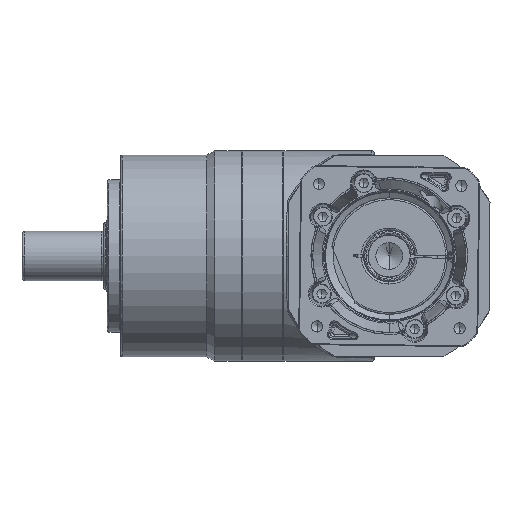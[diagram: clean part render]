
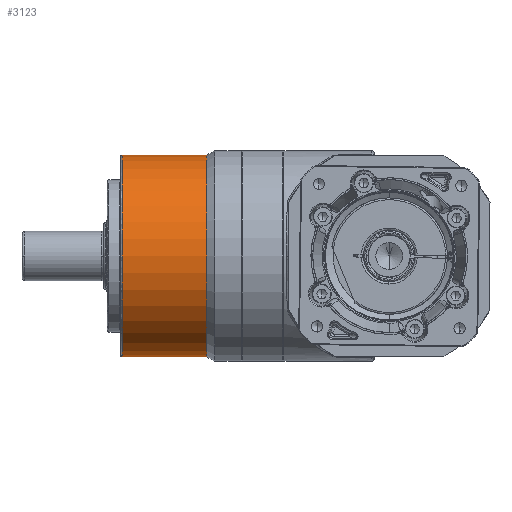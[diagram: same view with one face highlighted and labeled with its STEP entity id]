
A CAD part, front view. The second image highlights one B-rep face of the part: STEP entity #3123.
In plain terms, the highlighted cylindrical face has radius 45 mm (diameter 90 mm), a partial arc.
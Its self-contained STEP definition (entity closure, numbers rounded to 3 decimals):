
#1492 = EDGE_CURVE ( 'NONE', #13108, #37167, #39229, .T. ) ;
#1972 = ORIENTED_EDGE ( 'NONE', *, *, #14617, .F. ) ;
#2891 = CARTESIAN_POINT ( 'NONE',  ( -53.2, -39.253, 72.99 ) ) ;
#3123 = ADVANCED_FACE ( 'NONE', ( #7189 ), #28986, .T. ) ;
#3583 = DIRECTION ( 'NONE',  ( 0., 0., -1. ) ) ;
#5233 = VERTEX_POINT ( 'NONE', #14173 ) ;
#7189 = FACE_OUTER_BOUND ( 'NONE', #26511, .T. ) ;
#8623 = EDGE_CURVE ( 'NONE', #13108, #5233, #51170, .T. ) ;
#9412 = ORIENTED_EDGE ( 'NONE', *, *, #8623, .F. ) ;
#12820 = DIRECTION ( 'NONE',  ( -1., 0., 0. ) ) ;
#13014 = VERTEX_POINT ( 'NONE', #2891 ) ;
#13108 = VERTEX_POINT ( 'NONE', #35720 ) ;
#14173 = CARTESIAN_POINT ( 'NONE',  ( -15.5, -39.253, 72.99 ) ) ;
#14617 = EDGE_CURVE ( 'NONE', #5233, #13014, #55386, .T. ) ;
#14919 = DIRECTION ( 'NONE',  ( 0., 0., 1. ) ) ;
#24078 = DIRECTION ( 'NONE',  ( -1., 0., 0. ) ) ;
#24097 = DIRECTION ( 'NONE',  ( -1., 0., 0. ) ) ;
#24601 = CARTESIAN_POINT ( 'NONE',  ( -15.5, -39.253, 117.99 ) ) ;
#26511 = EDGE_LOOP ( 'NONE', ( #1972, #9412, #27827, #56431 ) ) ;
#27827 = ORIENTED_EDGE ( 'NONE', *, *, #1492, .T. ) ;
#28857 = DIRECTION ( 'NONE',  ( -1., 0., 0. ) ) ;
#28986 = CYLINDRICAL_SURFACE ( 'NONE', #44333, 45. ) ;
#29247 = CARTESIAN_POINT ( 'NONE',  ( -53.2, -39.253, 162.99 ) ) ;
#31481 = EDGE_CURVE ( 'NONE', #13014, #37167, #43796, .T. ) ;
#34025 = CARTESIAN_POINT ( 'NONE',  ( -53.2, -39.253, 117.99 ) ) ;
#35720 = CARTESIAN_POINT ( 'NONE',  ( -15.5, -39.253, 162.99 ) ) ;
#37167 = VERTEX_POINT ( 'NONE', #29247 ) ;
#37883 = CARTESIAN_POINT ( 'NONE',  ( -15.5, -39.253, 72.99 ) ) ;
#38345 = AXIS2_PLACEMENT_3D ( 'NONE', #24601, #42125, #46714 ) ;
#38886 = VECTOR ( 'NONE', #12820, 1000. ) ;
#39229 = LINE ( 'NONE', #53275, #38886 ) ;
#42125 = DIRECTION ( 'NONE',  ( 1., 0., 0. ) ) ;
#43796 = CIRCLE ( 'NONE', #51151, 45. ) ;
#44333 = AXIS2_PLACEMENT_3D ( 'NONE', #46500, #24097, #14919 ) ;
#44423 = VECTOR ( 'NONE', #24078, 1000. ) ;
#46500 = CARTESIAN_POINT ( 'NONE',  ( -15.5, -39.253, 117.99 ) ) ;
#46714 = DIRECTION ( 'NONE',  ( 0., 0., 1. ) ) ;
#51151 = AXIS2_PLACEMENT_3D ( 'NONE', #34025, #28857, #3583 ) ;
#51170 = CIRCLE ( 'NONE', #38345, 45. ) ;
#53275 = CARTESIAN_POINT ( 'NONE',  ( -15.5, -39.253, 162.99 ) ) ;
#55386 = LINE ( 'NONE', #37883, #44423 ) ;
#56431 = ORIENTED_EDGE ( 'NONE', *, *, #31481, .F. ) ;
